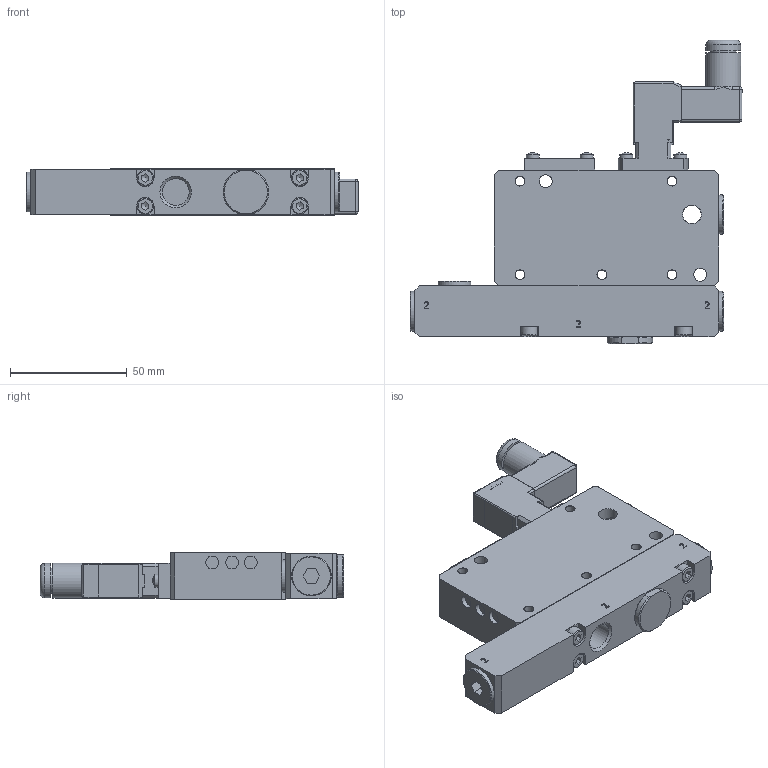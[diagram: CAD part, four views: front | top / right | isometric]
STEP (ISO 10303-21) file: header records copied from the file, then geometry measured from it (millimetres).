
FILE_DESCRIPTION(/* description */ ('GENERATORI DI VUOTO MULTISTADIO MODULARE 4 UGELLI (GVMES-4) SENZA VACUOSTATO ED EV. CONTROSOFFIO'),/* implementation_level */ '2;1');
FILE_NAME(/* name */ 'C:\PNX_VAULTFOLDER\Area Tecnica\Disegni\VARIE-3D\Componenti\1900 (vuoto)\19M14_M_12_ME_04.stp',/* time_stamp */ '2021-05-04T09:55:52+02:00',/* author */ ('maniean1'),/* organization */ (''),/* preprocessor_version */ 'ST-DEVELOPER v18.1',/* originating_system */ 'Autodesk Inventor 2021',/* authorisation */ '');
FILE_SCHEMA (('AUTOMOTIVE_DESIGN { 1 0 10303 214 3 1 1 }'));
Length unit declared in the file: millimetre
Products named in the file (7): 19M14.M.12.ME.04; 19M14_M_09_ME_ED_c; N221.0F; T10714; N221.00; T10718; 315.11.00
Assembly tree (8 placements, depth 2):
  19M14.M.12.ME.04
    19M14_M_09_ME_ED_c
    N221.0F
    T10714  x3
    N221.00
    T10718
    315.11.00
Bounding box: 141.9 x 129.85 x 20 mm (x, y, z)
Volume: 167545.8 mm3; surface area: 41017.4 mm2
Topology: 8 solids, 23 shells, 751 faces, 1902 edges, 1233 vertices
Faces by surface type: plane 421, cylinder 159, bspline 94, cone 52, torus 14, sphere 11
Full cylindrical faces by diameter (mm): 1 x2, 2.459 x5, 3 x5, 3.2 x2, 3.242 x4, 3.8 x1, 4 x4, 4.1 x5, 4.4 x1, 4.9 x1, 5.5 x9, 6.5 x1, 6.9 x1, 7 x6, 7.6 x1, 8 x2, 8.566 x1, 10 x2, 10.4 x1, 10.8 x1, 11.445 x4, 13.2 x3, 14 x1, 14.8 x1, 15 x1, 17 x3
Entity records: 30053 total; most frequent: CARTESIAN_POINT 11931, ORIENTED_EDGE 3662, DIRECTION 3267, EDGE_CURVE 1831, VERTEX_POINT 1199, LINE 1111, VECTOR 1111, AXIS2_PLACEMENT_3D 1078
